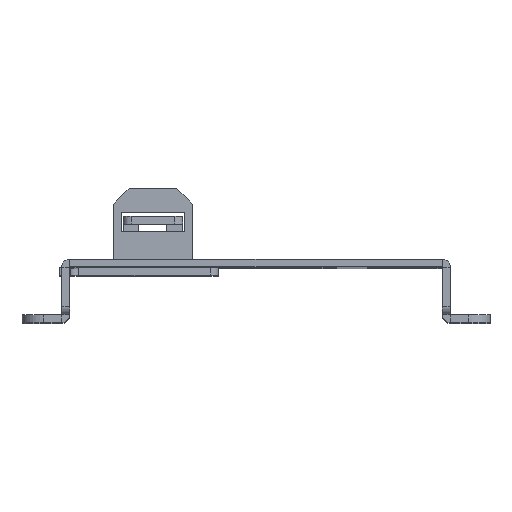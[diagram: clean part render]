
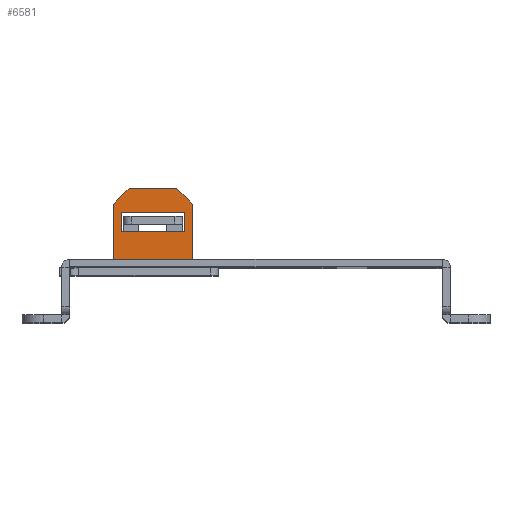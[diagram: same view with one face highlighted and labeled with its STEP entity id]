
A CAD part, top view. The second image highlights one B-rep face of the part: STEP entity #6581.
In plain terms, the highlighted planar face has unit normal (0, 0, 1).
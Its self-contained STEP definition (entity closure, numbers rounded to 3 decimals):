
#26 = EDGE_CURVE ( 'NONE', #2925, #1473, #4019, .T. ) ;
#62 = DIRECTION ( 'NONE',  ( 1., 0., 0. ) ) ;
#133 = VERTEX_POINT ( 'NONE', #4704 ) ;
#144 = LINE ( 'NONE', #3302, #1205 ) ;
#157 = FACE_BOUND ( 'NONE', #1096, .T. ) ;
#334 = AXIS2_PLACEMENT_3D ( 'NONE', #6793, #835, #1186 ) ;
#354 = ORIENTED_EDGE ( 'NONE', *, *, #3970, .F. ) ;
#364 = LINE ( 'NONE', #6442, #4401 ) ;
#406 = ORIENTED_EDGE ( 'NONE', *, *, #3926, .T. ) ;
#433 = VERTEX_POINT ( 'NONE', #1407 ) ;
#513 = VECTOR ( 'NONE', #6822, 1000. ) ;
#601 = VECTOR ( 'NONE', #6863, 1000. ) ;
#665 = CARTESIAN_POINT ( 'NONE',  ( -57.552, 23.01, 17. ) ) ;
#722 = LINE ( 'NONE', #4002, #2809 ) ;
#785 = CARTESIAN_POINT ( 'NONE',  ( -40.052, 30.51, 17. ) ) ;
#835 = DIRECTION ( 'NONE',  ( 0., 0., 1. ) ) ;
#854 = DIRECTION ( 'NONE',  ( -1., 0., 0. ) ) ;
#868 = ORIENTED_EDGE ( 'NONE', *, *, #5866, .F. ) ;
#878 = EDGE_CURVE ( 'NONE', #1714, #2743, #3687, .T. ) ;
#914 = LINE ( 'NONE', #6207, #956 ) ;
#924 = LINE ( 'NONE', #4895, #967 ) ;
#956 = VECTOR ( 'NONE', #6758, 1000. ) ;
#967 = VECTOR ( 'NONE', #1161, 1000. ) ;
#1050 = PLANE ( 'NONE',  #1816 ) ;
#1096 = EDGE_LOOP ( 'NONE', ( #3014, #4518, #354, #2660, #2962, #5794, #6564, #1815 ) ) ;
#1149 = LINE ( 'NONE', #5774, #601 ) ;
#1161 = DIRECTION ( 'NONE',  ( 1., 0., 0. ) ) ;
#1186 = DIRECTION ( 'NONE',  ( 1., 0., 0. ) ) ;
#1205 = VECTOR ( 'NONE', #1618, 1000. ) ;
#1208 = CARTESIAN_POINT ( 'NONE',  ( -37.552, 23.01, 17. ) ) ;
#1315 = LINE ( 'NONE', #1659, #2240 ) ;
#1407 = CARTESIAN_POINT ( 'NONE',  ( -40.052, 30.01, 17. ) ) ;
#1473 = VERTEX_POINT ( 'NONE', #3838 ) ;
#1499 = EDGE_CURVE ( 'NONE', #433, #5972, #4731, .T. ) ;
#1618 = DIRECTION ( 'NONE',  ( 1., 0., 0. ) ) ;
#1659 = CARTESIAN_POINT ( 'NONE',  ( -55.052, 35.01, 17. ) ) ;
#1714 = VERTEX_POINT ( 'NONE', #5356 ) ;
#1815 = ORIENTED_EDGE ( 'NONE', *, *, #26, .F. ) ;
#1816 = AXIS2_PLACEMENT_3D ( 'NONE', #6348, #3542, #3423 ) ;
#1830 = EDGE_LOOP ( 'NONE', ( #868, #5938, #6159, #2849, #2037, #406 ) ) ;
#1954 = VERTEX_POINT ( 'NONE', #3533 ) ;
#2037 = ORIENTED_EDGE ( 'NONE', *, *, #5598, .F. ) ;
#2129 = DIRECTION ( 'NONE',  ( -1., 0., 0. ) ) ;
#2134 = VECTOR ( 'NONE', #5125, 1000. ) ;
#2222 = DIRECTION ( 'NONE',  ( 0., 1., 0. ) ) ;
#2240 = VECTOR ( 'NONE', #854, 1000. ) ;
#2322 = EDGE_CURVE ( 'NONE', #1954, #5108, #3198, .T. ) ;
#2345 = DIRECTION ( 'NONE',  ( 0., 0., 1. ) ) ;
#2403 = DIRECTION ( 'NONE',  ( 0., 0., 1. ) ) ;
#2555 = LINE ( 'NONE', #4338, #2134 ) ;
#2567 = FACE_OUTER_BOUND ( 'NONE', #1830, .T. ) ;
#2660 = ORIENTED_EDGE ( 'NONE', *, *, #2322, .F. ) ;
#2743 = VERTEX_POINT ( 'NONE', #4734 ) ;
#2809 = VECTOR ( 'NONE', #2222, 1000. ) ;
#2849 = ORIENTED_EDGE ( 'NONE', *, *, #4943, .T. ) ;
#2871 = VERTEX_POINT ( 'NONE', #665 ) ;
#2925 = VERTEX_POINT ( 'NONE', #6396 ) ;
#2962 = ORIENTED_EDGE ( 'NONE', *, *, #5950, .F. ) ;
#3014 = ORIENTED_EDGE ( 'NONE', *, *, #4806, .F. ) ;
#3150 = VERTEX_POINT ( 'NONE', #3733 ) ;
#3198 = CIRCLE ( 'NONE', #4068, 0.5 ) ;
#3302 = CARTESIAN_POINT ( 'NONE',  ( -57.552, 23.01, 17. ) ) ;
#3383 = DIRECTION ( 'NONE',  ( 1., 0., 0. ) ) ;
#3423 = DIRECTION ( 'NONE',  ( -1., 0., 0. ) ) ;
#3533 = CARTESIAN_POINT ( 'NONE',  ( -39.552, 34.51, 17. ) ) ;
#3542 = DIRECTION ( 'NONE',  ( 0., 0., -1. ) ) ;
#3687 = CIRCLE ( 'NONE', #5807, 0.5 ) ;
#3733 = CARTESIAN_POINT ( 'NONE',  ( -53.552, 41.01, 17. ) ) ;
#3838 = CARTESIAN_POINT ( 'NONE',  ( -55.052, 30.01, 17. ) ) ;
#3926 = EDGE_CURVE ( 'NONE', #133, #5436, #5061, .T. ) ;
#3970 = EDGE_CURVE ( 'NONE', #5108, #1714, #1315, .T. ) ;
#4002 = CARTESIAN_POINT ( 'NONE',  ( -39.552, 34.51, 17. ) ) ;
#4019 = CIRCLE ( 'NONE', #334, 0.5 ) ;
#4068 = AXIS2_PLACEMENT_3D ( 'NONE', #4696, #2345, #2129 ) ;
#4155 = DIRECTION ( 'NONE',  ( 0., -1., 0. ) ) ;
#4166 = CARTESIAN_POINT ( 'NONE',  ( -41.552, 41.01, 17. ) ) ;
#4338 = CARTESIAN_POINT ( 'NONE',  ( -55.052, 30.01, 17. ) ) ;
#4348 = CARTESIAN_POINT ( 'NONE',  ( -40.052, 35.01, 17. ) ) ;
#4394 = VERTEX_POINT ( 'NONE', #6727 ) ;
#4401 = VECTOR ( 'NONE', #6775, 1000. ) ;
#4427 = AXIS2_PLACEMENT_3D ( 'NONE', #785, #2403, #3383 ) ;
#4475 = CARTESIAN_POINT ( 'NONE',  ( -55.052, 34.51, 17. ) ) ;
#4518 = ORIENTED_EDGE ( 'NONE', *, *, #878, .F. ) ;
#4678 = EDGE_CURVE ( 'NONE', #3150, #4394, #1149, .T. ) ;
#4696 = CARTESIAN_POINT ( 'NONE',  ( -40.052, 34.51, 17. ) ) ;
#4704 = CARTESIAN_POINT ( 'NONE',  ( -37.552, 37.01, 17. ) ) ;
#4731 = CIRCLE ( 'NONE', #4427, 0.5 ) ;
#4734 = CARTESIAN_POINT ( 'NONE',  ( -55.552, 34.51, 17. ) ) ;
#4802 = EDGE_CURVE ( 'NONE', #1473, #433, #2555, .T. ) ;
#4806 = EDGE_CURVE ( 'NONE', #2743, #2925, #364, .T. ) ;
#4895 = CARTESIAN_POINT ( 'NONE',  ( -57.552, 41.01, 17. ) ) ;
#4943 = EDGE_CURVE ( 'NONE', #2871, #6829, #144, .T. ) ;
#4970 = VECTOR ( 'NONE', #4155, 1000. ) ;
#5061 = LINE ( 'NONE', #6052, #513 ) ;
#5108 = VERTEX_POINT ( 'NONE', #4348 ) ;
#5125 = DIRECTION ( 'NONE',  ( 1., 0., 0. ) ) ;
#5352 = EDGE_CURVE ( 'NONE', #4394, #2871, #5850, .T. ) ;
#5356 = CARTESIAN_POINT ( 'NONE',  ( -55.052, 35.01, 17. ) ) ;
#5436 = VERTEX_POINT ( 'NONE', #4166 ) ;
#5497 = DIRECTION ( 'NONE',  ( 0., 0., 1. ) ) ;
#5598 = EDGE_CURVE ( 'NONE', #133, #6829, #914, .T. ) ;
#5774 = CARTESIAN_POINT ( 'NONE',  ( -53.552, 41.01, 17. ) ) ;
#5794 = ORIENTED_EDGE ( 'NONE', *, *, #1499, .F. ) ;
#5807 = AXIS2_PLACEMENT_3D ( 'NONE', #4475, #5497, #62 ) ;
#5850 = LINE ( 'NONE', #6832, #4970 ) ;
#5866 = EDGE_CURVE ( 'NONE', #3150, #5436, #924, .T. ) ;
#5938 = ORIENTED_EDGE ( 'NONE', *, *, #4678, .T. ) ;
#5950 = EDGE_CURVE ( 'NONE', #5972, #1954, #722, .T. ) ;
#5972 = VERTEX_POINT ( 'NONE', #6015 ) ;
#6015 = CARTESIAN_POINT ( 'NONE',  ( -39.552, 30.51, 17. ) ) ;
#6052 = CARTESIAN_POINT ( 'NONE',  ( -41.552, 41.01, 17. ) ) ;
#6159 = ORIENTED_EDGE ( 'NONE', *, *, #5352, .T. ) ;
#6207 = CARTESIAN_POINT ( 'NONE',  ( -37.552, 41.01, 17. ) ) ;
#6348 = CARTESIAN_POINT ( 'NONE',  ( -57.552, 41.01, 17. ) ) ;
#6396 = CARTESIAN_POINT ( 'NONE',  ( -55.552, 30.51, 17. ) ) ;
#6442 = CARTESIAN_POINT ( 'NONE',  ( -55.552, 34.51, 17. ) ) ;
#6564 = ORIENTED_EDGE ( 'NONE', *, *, #4802, .F. ) ;
#6581 = ADVANCED_FACE ( 'NONE', ( #157, #2567 ), #1050, .F. ) ;
#6727 = CARTESIAN_POINT ( 'NONE',  ( -57.552, 37.01, 17. ) ) ;
#6758 = DIRECTION ( 'NONE',  ( 0., -1., 0. ) ) ;
#6775 = DIRECTION ( 'NONE',  ( 0., -1., 0. ) ) ;
#6793 = CARTESIAN_POINT ( 'NONE',  ( -55.052, 30.51, 17. ) ) ;
#6822 = DIRECTION ( 'NONE',  ( -0.707, 0.707, 0. ) ) ;
#6829 = VERTEX_POINT ( 'NONE', #1208 ) ;
#6832 = CARTESIAN_POINT ( 'NONE',  ( -57.552, 41.01, 17. ) ) ;
#6863 = DIRECTION ( 'NONE',  ( -0.707, -0.707, 0. ) ) ;
